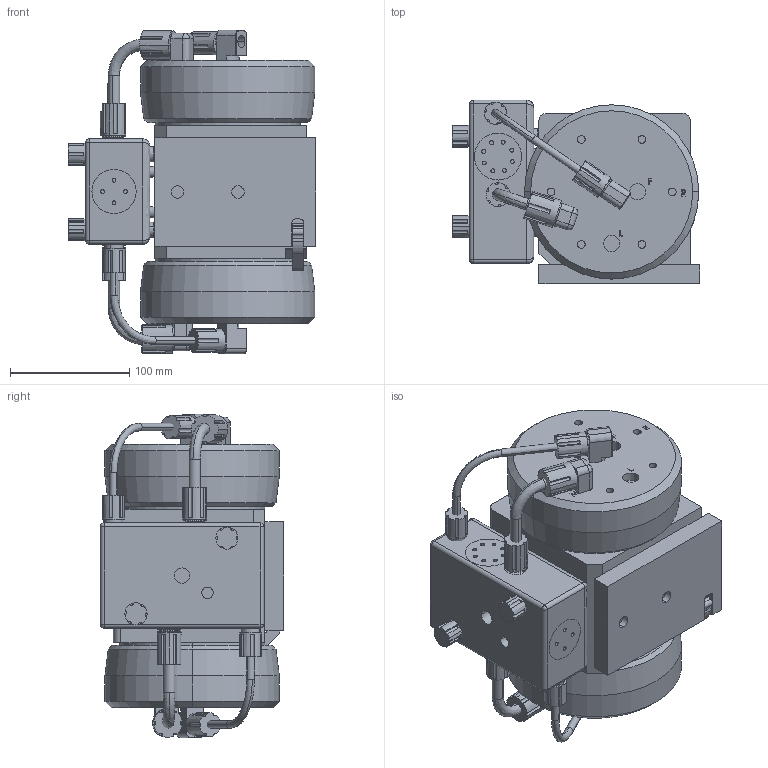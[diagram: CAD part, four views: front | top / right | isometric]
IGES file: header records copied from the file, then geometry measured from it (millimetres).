
Start section: SolidWorks IGES file using analytic representation for surfaces
Global section: file name: S:\Product Visuals\FILES FOR PUBLICATION\SOLID MODELS FOR PUBLICATION\psh060\psh060-t-fitting.IGS; native system: SolidWorks 2012; preprocessor: SolidWorks 2012; author: Rachel.Dressel; date: 121126.141301; units: inch
Bounding box: 207.67 x 153.79 x 271.22 mm (x, y, z)
Volume: 5236460 mm3; surface area: 409152.3 mm2
Topology: 35 solids, 35 shells, 1759 faces, 4317 edges, 2785 vertices
Faces by surface type: plane 916, revolution 679, bspline 164
